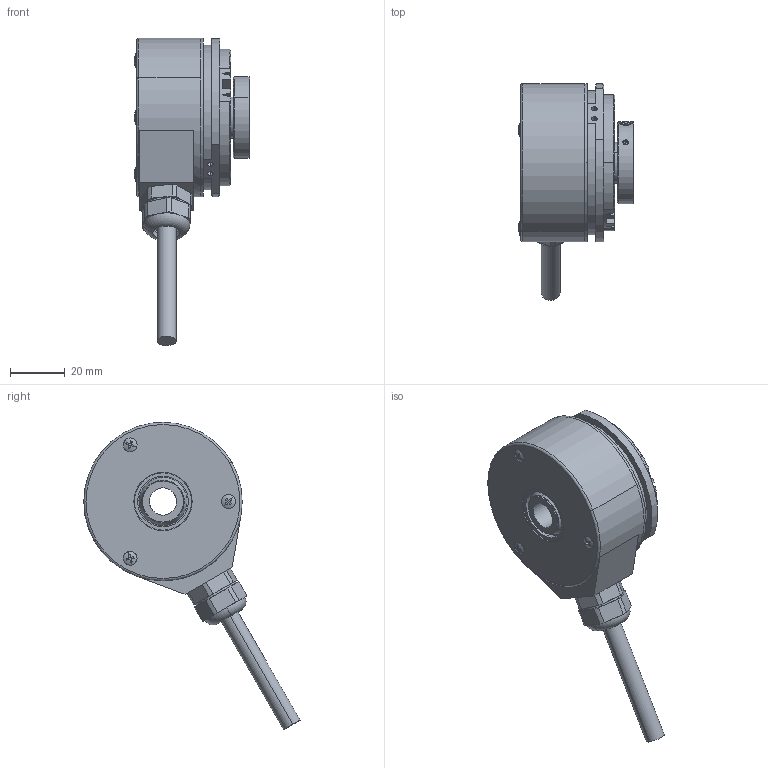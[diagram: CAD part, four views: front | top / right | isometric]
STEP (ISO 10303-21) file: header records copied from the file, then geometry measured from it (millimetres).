
FILE_DESCRIPTION (( 'STEP AP214' ), '1' );
FILE_NAME ('8.5825.16X1.XXXX.STEP', '2015-03-13T06:57:46', ( 'HeirlerN' ), ( 'Microsoft' ), 'SwSTEP 2.0', 'SolidWorks 2013', '' );
FILE_SCHEMA (( 'AUTOMOTIVE_DESIGN' ));
Length unit declared in the file: millimetre
Products named in the file (1): 8.5825.16X1.XXXX
Bounding box: 42.38 x 79.26 x 112.55 mm (x, y, z)
Surface area: 21440.1 mm2 (no closed solid volume)
Topology: 0 solids, 19 shells, 268 faces, 796 edges, 547 vertices
Faces by surface type: plane 138, cylinder 94, cone 16, torus 10, sphere 10
Entity records: 12302 total; most frequent: CARTESIAN_POINT 2046, DIRECTION 1613, ORIENTED_EDGE 1370, EDGE_CURVE 796, AXIS2_PLACEMENT_3D 610, VERTEX_POINT 547, LINE 393, VECTOR 393
